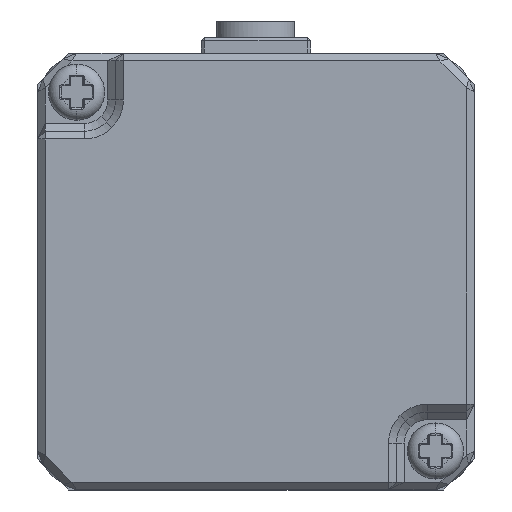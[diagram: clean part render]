
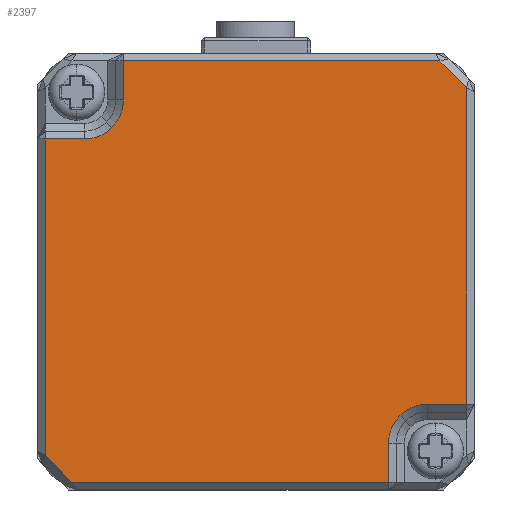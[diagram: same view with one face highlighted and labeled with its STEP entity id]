
A CAD part, left-side view. The second image highlights one B-rep face of the part: STEP entity #2397.
In plain terms, the highlighted planar face has unit normal (-1, 0, 0).
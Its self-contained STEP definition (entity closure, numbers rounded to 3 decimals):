
#2397=ADVANCED_FACE('',(#5234),#5235,.T.);
#5234=FACE_OUTER_BOUND('',#13250,.T.);
#5235=PLANE('',#13251);
#13250=EDGE_LOOP('',(#24901,#24902,#24903,#24904,#24905,#24906,#24907,#24908,#24909,#24910,#24911,#24912,#24913,#24914));
#13251=AXIS2_PLACEMENT_3D('',#24915,#24916,#24917);
#24901=ORIENTED_EDGE('',*,*,#32025,.F.);
#24902=ORIENTED_EDGE('',*,*,#32026,.F.);
#24903=ORIENTED_EDGE('',*,*,#32027,.F.);
#24904=ORIENTED_EDGE('',*,*,#32028,.F.);
#24905=ORIENTED_EDGE('',*,*,#29621,.F.);
#24906=ORIENTED_EDGE('',*,*,#29703,.F.);
#24907=ORIENTED_EDGE('',*,*,#32029,.F.);
#24908=ORIENTED_EDGE('',*,*,#32030,.F.);
#24909=ORIENTED_EDGE('',*,*,#30951,.F.);
#24910=ORIENTED_EDGE('',*,*,#32031,.F.);
#24911=ORIENTED_EDGE('',*,*,#32032,.F.);
#24912=ORIENTED_EDGE('',*,*,#32033,.F.);
#24913=ORIENTED_EDGE('',*,*,#31385,.F.);
#24914=ORIENTED_EDGE('',*,*,#32034,.F.);
#24915=CARTESIAN_POINT('',(98.013,120.996,7.5));
#24916=DIRECTION('',(-1.0,0.,0.));
#24917=DIRECTION('',(0.,-1.0,0.0));
#29621=EDGE_CURVE('',#33443,#33445,#33446,.T.);
#29703=EDGE_CURVE('',#33587,#33443,#33589,.T.);
#30951=EDGE_CURVE('',#35643,#35645,#35646,.T.);
#31385=EDGE_CURVE('',#36299,#36297,#36301,.T.);
#32025=EDGE_CURVE('',#37164,#37165,#37166,.T.);
#32026=EDGE_CURVE('',#37167,#37164,#37168,.T.);
#32027=EDGE_CURVE('',#37169,#37167,#37170,.T.);
#32028=EDGE_CURVE('',#33445,#37169,#37171,.T.);
#32029=EDGE_CURVE('',#33779,#33587,#37172,.T.);
#32030=EDGE_CURVE('',#35645,#33779,#37173,.T.);
#32031=EDGE_CURVE('',#37174,#35643,#37175,.T.);
#32032=EDGE_CURVE('',#37176,#37174,#37177,.T.);
#32033=EDGE_CURVE('',#36297,#37176,#37178,.T.);
#32034=EDGE_CURVE('',#37165,#36299,#37179,.T.);
#33443=VERTEX_POINT('',#39005);
#33445=VERTEX_POINT('',#39010);
#33446=LINE('',#39011,#39012);
#33587=VERTEX_POINT('',#39233);
#33589=LINE('',#39238,#39239);
#33779=VERTEX_POINT('',#39638);
#35643=VERTEX_POINT('',#42970);
#35645=VERTEX_POINT('',#42973);
#35646=CIRCLE('',#42974,2.5);
#36297=VERTEX_POINT('',#44240);
#36299=VERTEX_POINT('',#44245);
#36301=LINE('',#44250,#44251);
#37164=VERTEX_POINT('',#45970);
#37165=VERTEX_POINT('',#45971);
#37166=LINE('',#45972,#45973);
#37167=VERTEX_POINT('',#45974);
#37168=CIRCLE('',#45975,2.5);
#37169=VERTEX_POINT('',#45976);
#37170=CIRCLE('',#45977,2.5);
#37171=LINE('',#45978,#45979);
#37172=LINE('',#45980,#45981);
#37173=LINE('',#45982,#45983);
#37174=VERTEX_POINT('',#45984);
#37175=CIRCLE('',#45985,2.5);
#37176=VERTEX_POINT('',#45986);
#37177=LINE('',#45987,#45988);
#37178=LINE('',#45989,#45990);
#37179=LINE('',#45991,#45992);
#39005=CARTESIAN_POINT('',(98.013,134.496,-4.293));
#39010=CARTESIAN_POINT('',(98.013,134.496,16.0));
#39011=CARTESIAN_POINT('',(98.013,134.496,7.5));
#39012=VECTOR('',#48645,1.0);
#39233=CARTESIAN_POINT('',(98.013,132.789,-6.0));
#39238=CARTESIAN_POINT('',(98.013,133.642,-5.146));
#39239=VECTOR('',#48751,1.);
#39638=CARTESIAN_POINT('',(98.013,112.496,-6.0));
#42970=CARTESIAN_POINT('',(98.013,111.763,-1.732));
#42973=CARTESIAN_POINT('',(98.013,112.496,-3.5));
#42974=AXIS2_PLACEMENT_3D('',#50440,#50441,#50442);
#44240=CARTESIAN_POINT('',(98.013,107.496,19.293));
#44245=CARTESIAN_POINT('',(98.013,109.203,21.0));
#44250=CARTESIAN_POINT('',(98.013,108.349,20.146));
#44251=VECTOR('',#51005,1.);
#45970=CARTESIAN_POINT('',(98.013,129.496,18.5));
#45971=CARTESIAN_POINT('',(98.013,129.496,21.0));
#45972=CARTESIAN_POINT('',(98.013,129.496,14.5));
#45973=VECTOR('',#51803,1.0);
#45974=CARTESIAN_POINT('',(98.013,130.228,16.732));
#45975=AXIS2_PLACEMENT_3D('',#51804,#51805,#51806);
#45976=CARTESIAN_POINT('',(98.013,131.996,16.0));
#45977=AXIS2_PLACEMENT_3D('',#51807,#51808,#51809);
#45978=CARTESIAN_POINT('',(98.013,127.996,16.0));
#45979=VECTOR('',#51810,1.0);
#45980=CARTESIAN_POINT('',(98.013,120.996,-6.0));
#45981=VECTOR('',#51811,1.0);
#45982=CARTESIAN_POINT('',(98.013,112.496,0.5));
#45983=VECTOR('',#51812,1.0);
#45984=CARTESIAN_POINT('',(98.013,109.996,-1.));
#45985=AXIS2_PLACEMENT_3D('',#51813,#51814,#51815);
#45986=CARTESIAN_POINT('',(98.013,107.496,-1.));
#45987=CARTESIAN_POINT('',(98.013,113.996,-1.));
#45988=VECTOR('',#51816,1.0);
#45989=CARTESIAN_POINT('',(98.013,107.496,7.5));
#45990=VECTOR('',#51817,1.0);
#45991=CARTESIAN_POINT('',(98.013,120.996,21.0));
#45992=VECTOR('',#51818,1.0);
#48645=DIRECTION('',(0.,0.,1.0));
#48751=DIRECTION('',(0.0,0.707,0.707));
#50440=CARTESIAN_POINT('',(98.013,109.996,-3.5));
#50441=DIRECTION('',(-1.0,0.,0.));
#50442=DIRECTION('',(0.0,0.707,0.707));
#51005=DIRECTION('',(0.0,-0.707,-0.707));
#51803=DIRECTION('',(0.,0.,1.0));
#51804=CARTESIAN_POINT('',(98.013,131.996,18.5));
#51805=DIRECTION('',(-1.0,0.,0.));
#51806=DIRECTION('',(0.0,-0.707,-0.707));
#51807=CARTESIAN_POINT('',(98.013,131.996,18.5));
#51808=DIRECTION('',(-1.0,0.,0.));
#51809=DIRECTION('',(0.0,-0.707,-0.707));
#51810=DIRECTION('',(0.,-1.0,0.0));
#51811=DIRECTION('',(0.,1.0,0.0));
#51812=DIRECTION('',(0.,0.,-1.0));
#51813=CARTESIAN_POINT('',(98.013,109.996,-3.5));
#51814=DIRECTION('',(-1.0,0.,0.));
#51815=DIRECTION('',(0.0,0.707,0.707));
#51816=DIRECTION('',(0.,1.0,0.0));
#51817=DIRECTION('',(0.,0.,-1.0));
#51818=DIRECTION('',(0.,-1.0,0.0));
